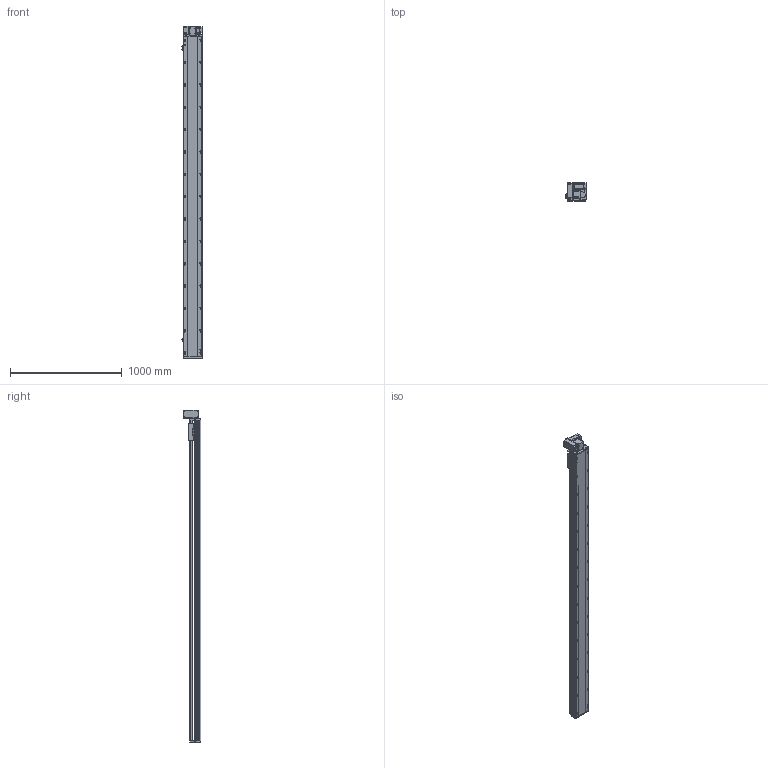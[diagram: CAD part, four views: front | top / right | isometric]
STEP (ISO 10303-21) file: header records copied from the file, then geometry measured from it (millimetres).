
FILE_DESCRIPTION (( 'STEP AP214' ), '1' );
FILE_NAME ('RTB17S-XX-2600-LW-M40-C4.STEP', '2025-12-11T07:18:04', ( '' ), ( '' ), 'SwSTEP 2.0', 'SolidWorks 2018', '' );
FILE_SCHEMA (( 'AUTOMOTIVE_DESIGN' ));
Length unit declared in the file: millimetre
Products named in the file (14): RTB17S-LW-々湍釱蚾饜-400W^RTB17S-XX-XX-LW-M40-C4; RTB14-L-008-M20--萇儂啣^RTB17S-LW-々湍釱蚾饜-400W_RTB17S-XX-XX-LW-M40-C4; RTH13-BL-012覜茼え俋离^RTB17S-XX-XX-LW-M40-C4; RTB14-L-017P^RTB17S-LW-々湍釱蚾饜-400W_RTB17S-XX-XX-LW-M40-C4; OMRON EE-SX672 传感器^RTB17S-XX-XX-LW-M40-C4; 400W侜督萇儂^RTB17S-XX-XX-LW-M40-C4; RTB17S-XX-2600-LW-M40-C4; RTB17S-L-014-T20--々湍釱^RTB17S-LW-々湍釱蚾饜-400W_RTB17S-XX-XX-LW-M40-C4; RTB17S-L-004佪裝蹟譫蟀諉釱^RTB17S-XX-XX-LW-M40-C4; RTB14-L-018P^RTB17S-LW-々湍釱蚾饜-400W_RTB17S-XX-XX-LW-M40-C4; RTB14-L-005P--轴承塑胶压盖^RTB17S-LW-皮带座装配-400W_RTB17S-XX-XX-LW-M40-C4; RTB17S-L-001耜醱啣^RTB17S-XX-XX-LW-M40-C4; RTB17S-L-007奻裔^RTB17S-XX-XX-LW-M40-C4; RTB17-R-011菁釱^RTB17S-XX-XX-LW-M40-C4
Assembly tree (16 placements, depth 3):
  RTB17S-XX-2600-LW-M40-C4
    RTB17-R-011菁釱^RTB17S-XX-XX-LW-M40-C4
    RTB17S-L-007奻裔^RTB17S-XX-XX-LW-M40-C4
    OMRON EE-SX672 传感器^RTB17S-XX-XX-LW-M40-C4  x3
    RTB17S-L-001耜醱啣^RTB17S-XX-XX-LW-M40-C4
    400W侜督萇儂^RTB17S-XX-XX-LW-M40-C4
    RTB17S-L-004佪裝蹟譫蟀諉釱^RTB17S-XX-XX-LW-M40-C4
    RTH13-BL-012覜茼え俋离^RTB17S-XX-XX-LW-M40-C4
    RTB17S-LW-々湍釱蚾饜-400W^RTB17S-XX-XX-LW-M40-C4
      RTB17S-L-014-T20--々湍釱^RTB17S-LW-々湍釱蚾饜-400W_RTB17S-XX-XX-LW-M40-C4
      RTB14-L-005P--轴承塑胶压盖^RTB17S-LW-皮带座装配-400W_RTB17S-XX-XX-LW-M40-C4
      RTB14-L-008-M20--萇儂啣^RTB17S-LW-々湍釱蚾饜-400W_RTB17S-XX-XX-LW-M40-C4
      RTB14-L-017P^RTB17S-LW-々湍釱蚾饜-400W_RTB17S-XX-XX-LW-M40-C4  x2
      RTB14-L-018P^RTB17S-LW-々湍釱蚾饜-400W_RTB17S-XX-XX-LW-M40-C4
Bounding box: 186 x 160.5 x 2972.5 mm (x, y, z)
Volume: 25424834.4 mm3; surface area: 2920031.7 mm2
Topology: 15 solids, 15 shells, 2333 faces, 6519 edges, 4257 vertices
Faces by surface type: plane 1084, cylinder 801, bspline 301, cone 139, torus 8
Entity records: 68777 total; most frequent: CARTESIAN_POINT 19524, ORIENTED_EDGE 9882, DIRECTION 9116, EDGE_CURVE 4941, VERTEX_POINT 3245, AXIS2_PLACEMENT_3D 3175, LINE 2766, VECTOR 2766
